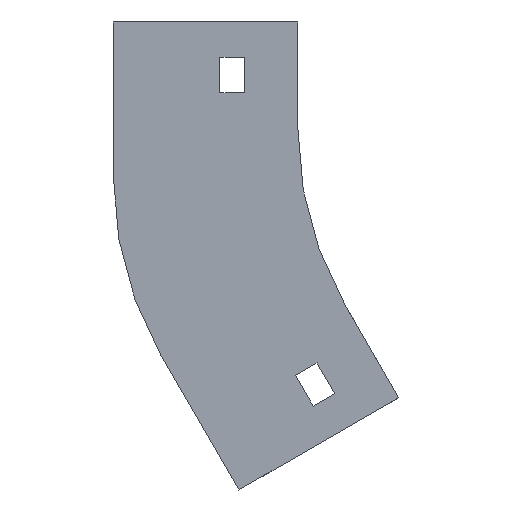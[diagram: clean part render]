
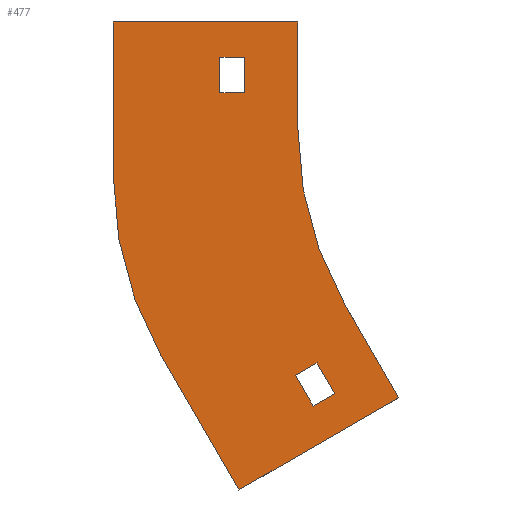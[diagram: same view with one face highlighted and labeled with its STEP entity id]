
A CAD part, left-side view. The second image highlights one B-rep face of the part: STEP entity #477.
In plain terms, the highlighted planar face has unit normal (-1, 0, 0).
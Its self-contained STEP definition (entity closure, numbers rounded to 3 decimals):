
#7 = EDGE_CURVE ( 'NONE', #297, #518, #1086, .T. ) ;
#23 = CARTESIAN_POINT ( 'NONE',  ( -102., -28.397, -105.981 ) ) ;
#34 = DIRECTION ( 'NONE',  ( 0., -1., 0. ) ) ;
#40 = ORIENTED_EDGE ( 'NONE', *, *, #478, .F. ) ;
#43 = CARTESIAN_POINT ( 'NONE',  ( -102., 0., 0. ) ) ;
#78 = CARTESIAN_POINT ( 'NONE',  ( -102., 0.655, -99.66 ) ) ;
#88 = VERTEX_POINT ( 'NONE', #741 ) ;
#110 = VERTEX_POINT ( 'NONE', #845 ) ;
#127 = CARTESIAN_POINT ( 'NONE',  ( -102., -4.345, -108.321 ) ) ;
#134 = EDGE_CURVE ( 'NONE', #1226, #821, #1156, .T. ) ;
#148 = CARTESIAN_POINT ( 'NONE',  ( -102., -13.397, -80. ) ) ;
#156 = AXIS2_PLACEMENT_3D ( 'NONE', #1297, #672, #464 ) ;
#158 = DIRECTION ( 'NONE',  ( 0., -0.5, -0.866 ) ) ;
#171 = EDGE_CURVE ( 'NONE', #1052, #1328, #1232, .T. ) ;
#175 = AXIS2_PLACEMENT_3D ( 'NONE', #947, #1185, #440 ) ;
#178 = DIRECTION ( 'NONE',  ( 0., 0., 1. ) ) ;
#199 = CARTESIAN_POINT ( 'NONE',  ( -102., 22., -20. ) ) ;
#200 = LINE ( 'NONE', #1371, #1301 ) ;
#203 = DIRECTION ( 'NONE',  ( 0., 0.866, -0.5 ) ) ;
#206 = ORIENTED_EDGE ( 'NONE', *, *, #446, .F. ) ;
#229 = DIRECTION ( 'NONE',  ( 0., 0., -1. ) ) ;
#230 = LINE ( 'NONE', #318, #1133 ) ;
#235 = ORIENTED_EDGE ( 'NONE', *, *, #1080, .F. ) ;
#238 = DIRECTION ( 'NONE',  ( 0., -0.5, -0.866 ) ) ;
#252 = EDGE_CURVE ( 'NONE', #394, #88, #295, .T. ) ;
#274 = CARTESIAN_POINT ( 'NONE',  ( -102., 22., -20. ) ) ;
#279 = ORIENTED_EDGE ( 'NONE', *, *, #981, .F. ) ;
#286 = VERTEX_POINT ( 'NONE', #790 ) ;
#295 = LINE ( 'NONE', #1138, #1053 ) ;
#297 = VERTEX_POINT ( 'NONE', #23 ) ;
#298 = CARTESIAN_POINT ( 'NONE',  ( -102., 15., -20. ) ) ;
#318 = CARTESIAN_POINT ( 'NONE',  ( -102., -4.345, -108.321 ) ) ;
#330 = ORIENTED_EDGE ( 'NONE', *, *, #865, .F. ) ;
#336 = VERTEX_POINT ( 'NONE', #148 ) ;
#357 = VECTOR ( 'NONE', #178, 1000. ) ;
#366 = EDGE_CURVE ( 'NONE', #849, #955, #1089, .T. ) ;
#368 = EDGE_LOOP ( 'NONE', ( #1118, #1183, #279, #330, #433, #206, #235, #1042 ) ) ;
#383 = CARTESIAN_POINT ( 'NONE',  ( -102., -13.397, -80. ) ) ;
#394 = VERTEX_POINT ( 'NONE', #491 ) ;
#396 = EDGE_CURVE ( 'NONE', #286, #110, #501, .T. ) ;
#415 = DIRECTION ( 'NONE',  ( 0., 0., -1. ) ) ;
#419 = VECTOR ( 'NONE', #647, 1000. ) ;
#427 = CARTESIAN_POINT ( 'NONE',  ( -102., 16.636, -131.981 ) ) ;
#433 = ORIENTED_EDGE ( 'NONE', *, *, #7, .F. ) ;
#440 = DIRECTION ( 'NONE',  ( 0., 0., 1. ) ) ;
#443 = VECTOR ( 'NONE', #451, 1000. ) ;
#446 = EDGE_CURVE ( 'NONE', #336, #297, #796, .T. ) ;
#451 = DIRECTION ( 'NONE',  ( 0., 0.866, -0.5 ) ) ;
#462 = VECTOR ( 'NONE', #919, 1000. ) ;
#464 = DIRECTION ( 'NONE',  ( 0., 0., 1. ) ) ;
#477 = ADVANCED_FACE ( 'NONE', ( #1190, #1389, #1165 ), #750, .T. ) ;
#478 = EDGE_CURVE ( 'NONE', #1328, #849, #230, .T. ) ;
#491 = CARTESIAN_POINT ( 'NONE',  ( -102., 52., -43.933 ) ) ;
#501 = LINE ( 'NONE', #1008, #1240 ) ;
#506 = LINE ( 'NONE', #1384, #1077 ) ;
#518 = VERTEX_POINT ( 'NONE', #427 ) ;
#533 = ORIENTED_EDGE ( 'NONE', *, *, #396, .T. ) ;
#552 = CIRCLE ( 'NONE', #1116, 100. ) ;
#608 = CARTESIAN_POINT ( 'NONE',  ( -102., -4.345, -108.321 ) ) ;
#634 = CARTESIAN_POINT ( 'NONE',  ( -102., -10.407, -104.821 ) ) ;
#637 = ORIENTED_EDGE ( 'NONE', *, *, #134, .T. ) ;
#647 = DIRECTION ( 'NONE',  ( 0., -0.866, 0.5 ) ) ;
#651 = VECTOR ( 'NONE', #158, 1000. ) ;
#667 = CARTESIAN_POINT ( 'NONE',  ( -102., 52., 0. ) ) ;
#672 = DIRECTION ( 'NONE',  ( -1., 0., 0. ) ) ;
#673 = CARTESIAN_POINT ( 'NONE',  ( -102., 38.603, -93.933 ) ) ;
#677 = CIRCLE ( 'NONE', #156, 100. ) ;
#696 = CARTESIAN_POINT ( 'NONE',  ( -102., 0., -30. ) ) ;
#711 = DIRECTION ( 'NONE',  ( 0., 0.5, 0.866 ) ) ;
#733 = EDGE_CURVE ( 'NONE', #110, #1226, #1198, .T. ) ;
#741 = CARTESIAN_POINT ( 'NONE',  ( -102., 52., 0. ) ) ;
#750 = PLANE ( 'NONE',  #175 ) ;
#760 = VERTEX_POINT ( 'NONE', #673 ) ;
#784 = CARTESIAN_POINT ( 'NONE',  ( -102., 15., -10. ) ) ;
#790 = CARTESIAN_POINT ( 'NONE',  ( -102., 22., -10. ) ) ;
#796 = LINE ( 'NONE', #383, #651 ) ;
#803 = LINE ( 'NONE', #1018, #937 ) ;
#821 = VERTEX_POINT ( 'NONE', #274 ) ;
#831 = VECTOR ( 'NONE', #34, 1000. ) ;
#835 = EDGE_CURVE ( 'NONE', #955, #1052, #200, .T. ) ;
#845 = CARTESIAN_POINT ( 'NONE',  ( -102., 15., -10. ) ) ;
#849 = VERTEX_POINT ( 'NONE', #608 ) ;
#865 = EDGE_CURVE ( 'NONE', #518, #760, #803, .T. ) ;
#895 = DIRECTION ( 'NONE',  ( 0., 0., -1. ) ) ;
#905 = DIRECTION ( 'NONE',  ( 0., 0., 1. ) ) ;
#919 = DIRECTION ( 'NONE',  ( 0., 1., 0. ) ) ;
#923 = ORIENTED_EDGE ( 'NONE', *, *, #171, .F. ) ;
#937 = VECTOR ( 'NONE', #1223, 1000. ) ;
#947 = CARTESIAN_POINT ( 'NONE',  ( -102., -100., -30. ) ) ;
#955 = VERTEX_POINT ( 'NONE', #634 ) ;
#958 = CARTESIAN_POINT ( 'NONE',  ( -102., -48., -43.933 ) ) ;
#981 = EDGE_CURVE ( 'NONE', #760, #394, #552, .T. ) ;
#985 = ORIENTED_EDGE ( 'NONE', *, *, #733, .T. ) ;
#998 = VECTOR ( 'NONE', #895, 1000. ) ;
#1006 = EDGE_LOOP ( 'NONE', ( #533, #985, #637, #1386 ) ) ;
#1008 = CARTESIAN_POINT ( 'NONE',  ( -102., 22., -10. ) ) ;
#1018 = CARTESIAN_POINT ( 'NONE',  ( -102., 16.636, -131.981 ) ) ;
#1042 = ORIENTED_EDGE ( 'NONE', *, *, #1367, .F. ) ;
#1052 = VERTEX_POINT ( 'NONE', #1316 ) ;
#1053 = VECTOR ( 'NONE', #905, 1000. ) ;
#1062 = ORIENTED_EDGE ( 'NONE', *, *, #835, .F. ) ;
#1077 = VECTOR ( 'NONE', #415, 1000. ) ;
#1080 = EDGE_CURVE ( 'NONE', #1274, #336, #677, .T. ) ;
#1086 = LINE ( 'NONE', #1110, #443 ) ;
#1089 = LINE ( 'NONE', #127, #419 ) ;
#1097 = EDGE_CURVE ( 'NONE', #88, #1303, #1325, .T. ) ;
#1110 = CARTESIAN_POINT ( 'NONE',  ( -102., -28.397, -105.981 ) ) ;
#1116 = AXIS2_PLACEMENT_3D ( 'NONE', #958, #1172, #229 ) ;
#1118 = ORIENTED_EDGE ( 'NONE', *, *, #1097, .F. ) ;
#1126 = CARTESIAN_POINT ( 'NONE',  ( -102., 22., -10. ) ) ;
#1133 = VECTOR ( 'NONE', #238, 1000. ) ;
#1138 = CARTESIAN_POINT ( 'NONE',  ( -102., 52., -43.933 ) ) ;
#1156 = LINE ( 'NONE', #199, #462 ) ;
#1165 = FACE_BOUND ( 'NONE', #1379, .T. ) ;
#1172 = DIRECTION ( 'NONE',  ( 1., 0., 0. ) ) ;
#1183 = ORIENTED_EDGE ( 'NONE', *, *, #252, .F. ) ;
#1185 = DIRECTION ( 'NONE',  ( -1., 0., 0. ) ) ;
#1190 = FACE_BOUND ( 'NONE', #1006, .T. ) ;
#1198 = LINE ( 'NONE', #784, #998 ) ;
#1223 = DIRECTION ( 'NONE',  ( 0., 0.5, 0.866 ) ) ;
#1226 = VERTEX_POINT ( 'NONE', #298 ) ;
#1232 = LINE ( 'NONE', #1342, #1287 ) ;
#1236 = LINE ( 'NONE', #1126, #357 ) ;
#1240 = VECTOR ( 'NONE', #1347, 1000. ) ;
#1255 = ORIENTED_EDGE ( 'NONE', *, *, #366, .F. ) ;
#1274 = VERTEX_POINT ( 'NONE', #696 ) ;
#1287 = VECTOR ( 'NONE', #203, 1000. ) ;
#1289 = EDGE_CURVE ( 'NONE', #821, #286, #1236, .T. ) ;
#1297 = CARTESIAN_POINT ( 'NONE',  ( -102., -100., -30. ) ) ;
#1301 = VECTOR ( 'NONE', #711, 1000. ) ;
#1303 = VERTEX_POINT ( 'NONE', #43 ) ;
#1316 = CARTESIAN_POINT ( 'NONE',  ( -102., -5.407, -96.16 ) ) ;
#1325 = LINE ( 'NONE', #667, #831 ) ;
#1328 = VERTEX_POINT ( 'NONE', #78 ) ;
#1342 = CARTESIAN_POINT ( 'NONE',  ( -102., 0.655, -99.66 ) ) ;
#1347 = DIRECTION ( 'NONE',  ( 0., -1., 0. ) ) ;
#1367 = EDGE_CURVE ( 'NONE', #1303, #1274, #506, .T. ) ;
#1371 = CARTESIAN_POINT ( 'NONE',  ( -102., -10.407, -104.821 ) ) ;
#1379 = EDGE_LOOP ( 'NONE', ( #1062, #1255, #40, #923 ) ) ;
#1384 = CARTESIAN_POINT ( 'NONE',  ( -102., 0., 0. ) ) ;
#1386 = ORIENTED_EDGE ( 'NONE', *, *, #1289, .T. ) ;
#1389 = FACE_OUTER_BOUND ( 'NONE', #368, .T. ) ;
